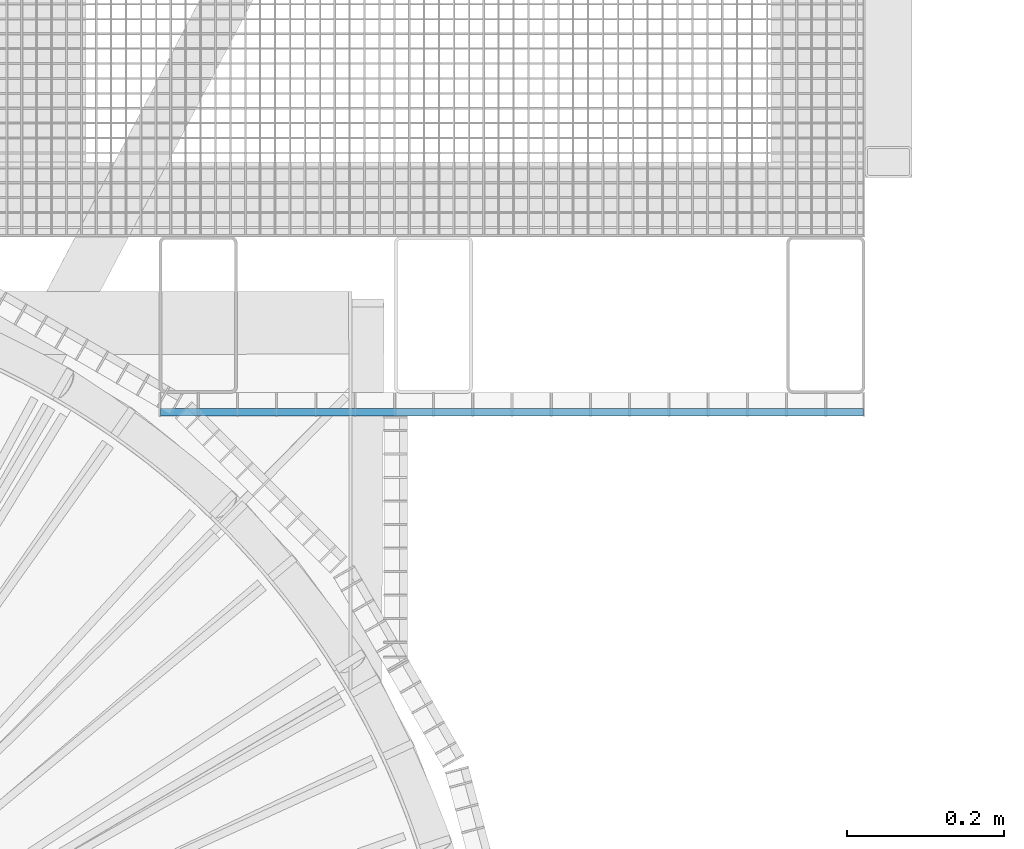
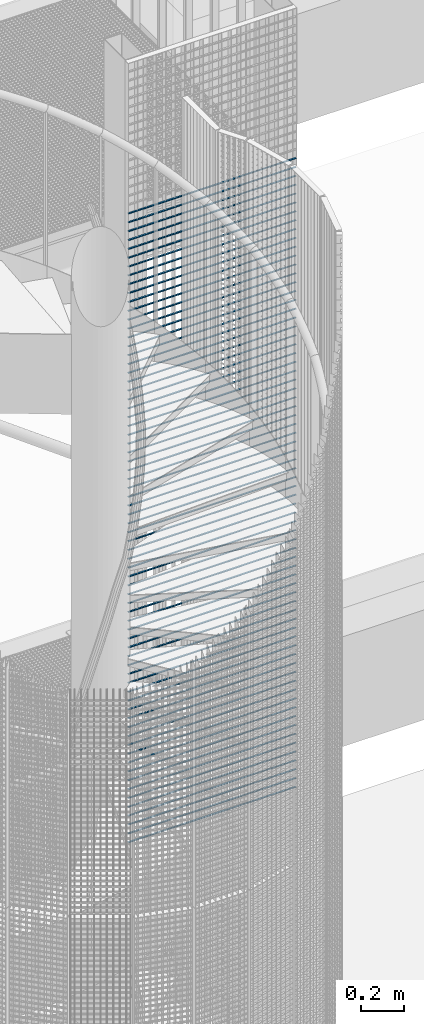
# One storey, part 304 of 1183: 72 beams, 1 element without a shape of its own.
"""IFC2X3 building model written with IfcOpenShell, lengths in millimetres."""

from ifc_helpers import new_model, si_unit, frame, origin_with_axes, origin_2d_with_axis, place, context, subcontext, project, spatial, rectangle, extrude, material, type_object, element, aggregate, save


model = new_model("IFC2X3")

# Units and contexts
model_context = context("Model", 3, precision=1e-05, world=origin_with_axes())
body_context = subcontext(model_context, "Body", "Model", "MODEL_VIEW")
ifc_project = project(units=[si_unit("LENGTHUNIT", "METRE", prefix="MILLI"), si_unit("AREAUNIT", "SQUARE_METRE"), si_unit("VOLUMEUNIT", "CUBIC_METRE"), si_unit("MASSUNIT", "GRAM", prefix="KILO"), si_unit("TIMEUNIT", "SECOND"), si_unit("PLANEANGLEUNIT", "RADIAN"), si_unit("SOLIDANGLEUNIT", "STERADIAN"), si_unit("THERMODYNAMICTEMPERATUREUNIT", "DEGREE_CELSIUS"), si_unit("LUMINOUSINTENSITYUNIT", "LUMEN")], contexts=[model_context])

# Site, building, storey
site_placement = place(None, origin_with_axes())
site = spatial("IfcSite", under=ifc_project, at=site_placement, Name="Undefined", CompositionType="ELEMENT")
building_placement = place(site_placement, origin_with_axes())
building = spatial("IfcBuilding", under=site, at=building_placement, Name="Undefined", CompositionType="ELEMENT")
storey_placement = place(building_placement, origin_with_axes())
storey = spatial("IfcBuildingStorey", under=building, at=storey_placement, Name="Undefined", CompositionType="ELEMENT", Elevation=0.0)

# Assembly, beams
assembly_placement = place(storey_placement, origin_with_axes())
assembly = element("IfcElementAssembly", 1, at=assembly_placement, inside=storey, Name="BORDURE", AssemblyPlace="NOTDEFINED", PredefinedType="NOTDEFINED")
ifc_material = material(Name="STEEL/S235JR")
beam_type = type_object("IfcBeamType", Name="PL2*10", PredefinedType="NOTDEFINED")
beam_1_placement = place(assembly_placement, frame((652.069589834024, 876.014689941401, 17439.998), z_axis=(0.0, -1.0, 0.0), x_axis=(1.0, 0.0, 0.0)))
beam_1 = element("IfcBeam", 2, at=beam_1_placement, type_object=beam_type, material=ifc_material, Name="ENTRETOISE", context=body_context, shape_type="SweptSolid", body=[
    extrude(rectangle(XDim=2.0, YDim=10.0, at=origin_2d_with_axis()), frame((896.0, 0.0, 0.0), z_axis=(-1.0, 0.0, 0.0), x_axis=(0.0, -1.0, 0.0)), (0.0, 0.0, 1.0), 896.0),
])
beam_2_placement = place(assembly_placement, frame((652.069589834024, 876.014689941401, 17389.998), z_axis=(0.0, -1.0, 0.0), x_axis=(1.0, 0.0, 0.0)))
beam_2 = element("IfcBeam", 3, at=beam_2_placement, type_object=beam_type, material=ifc_material, Name="ENTRETOISE", context=body_context, shape_type="SweptSolid", body=[
    extrude(rectangle(XDim=2.0, YDim=10.0, at=origin_2d_with_axis()), frame((896.0, 0.0, 0.0), z_axis=(-1.0, 0.0, 0.0), x_axis=(0.0, -1.0, 0.0)), (0.0, 0.0, 1.0), 896.0),
])
beam_3_placement = place(assembly_placement, frame((652.069589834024, 876.014689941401, 17339.998), z_axis=(0.0, -1.0, 0.0), x_axis=(1.0, 0.0, 0.0)))
beam_3 = element("IfcBeam", 4, at=beam_3_placement, type_object=beam_type, material=ifc_material, Name="ENTRETOISE", context=body_context, shape_type="SweptSolid", body=[
    extrude(rectangle(XDim=2.0, YDim=10.0, at=origin_2d_with_axis()), frame((896.0, 0.0, 0.0), z_axis=(-1.0, 0.0, 0.0), x_axis=(0.0, -1.0, 0.0)), (0.0, 0.0, 1.0), 896.0),
])
beam_4_placement = place(assembly_placement, frame((652.069589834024, 876.014689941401, 17289.998), z_axis=(0.0, -1.0, 0.0), x_axis=(1.0, 0.0, 0.0)))
beam_4 = element("IfcBeam", 5, at=beam_4_placement, type_object=beam_type, material=ifc_material, Name="ENTRETOISE", context=body_context, shape_type="SweptSolid", body=[
    extrude(rectangle(XDim=2.0, YDim=10.0, at=origin_2d_with_axis()), frame((896.0, 0.0, 0.0), z_axis=(-1.0, 0.0, 0.0), x_axis=(0.0, -1.0, 0.0)), (0.0, 0.0, 1.0), 896.0),
])
beam_5_placement = place(assembly_placement, frame((652.069589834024, 876.014689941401, 17239.998), z_axis=(0.0, -1.0, 0.0), x_axis=(1.0, 0.0, 0.0)))
beam_5 = element("IfcBeam", 6, at=beam_5_placement, type_object=beam_type, material=ifc_material, Name="ENTRETOISE", context=body_context, shape_type="SweptSolid", body=[
    extrude(rectangle(XDim=2.0, YDim=10.0, at=origin_2d_with_axis()), frame((896.0, 0.0, 0.0), z_axis=(-1.0, 0.0, 0.0), x_axis=(0.0, -1.0, 0.0)), (0.0, 0.0, 1.0), 896.0),
])
beam_6_placement = place(assembly_placement, frame((652.069589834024, 876.014689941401, 17189.998), z_axis=(0.0, -1.0, 0.0), x_axis=(1.0, 0.0, 0.0)))
beam_6 = element("IfcBeam", 7, at=beam_6_placement, type_object=beam_type, material=ifc_material, Name="ENTRETOISE", context=body_context, shape_type="SweptSolid", body=[
    extrude(rectangle(XDim=2.0, YDim=10.0, at=origin_2d_with_axis()), frame((896.0, 0.0, 0.0), z_axis=(-1.0, 0.0, 0.0), x_axis=(0.0, -1.0, 0.0)), (0.0, 0.0, 1.0), 896.0),
])
beam_7_placement = place(assembly_placement, frame((652.069589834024, 876.014689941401, 17139.998), z_axis=(0.0, -1.0, 0.0), x_axis=(1.0, 0.0, 0.0)))
beam_7 = element("IfcBeam", 8, at=beam_7_placement, type_object=beam_type, material=ifc_material, Name="ENTRETOISE", context=body_context, shape_type="SweptSolid", body=[
    extrude(rectangle(XDim=2.0, YDim=10.0, at=origin_2d_with_axis()), frame((896.0, 0.0, 0.0), z_axis=(-1.0, 0.0, 0.0), x_axis=(0.0, -1.0, 0.0)), (0.0, 0.0, 1.0), 896.0),
])
beam_8_placement = place(assembly_placement, frame((652.069589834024, 876.014689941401, 17089.998), z_axis=(0.0, -1.0, 0.0), x_axis=(1.0, 0.0, 0.0)))
beam_8 = element("IfcBeam", 9, at=beam_8_placement, type_object=beam_type, material=ifc_material, Name="ENTRETOISE", context=body_context, shape_type="SweptSolid", body=[
    extrude(rectangle(XDim=2.0, YDim=10.0, at=origin_2d_with_axis()), frame((896.0, 0.0, 0.0), z_axis=(-1.0, 0.0, 0.0), x_axis=(0.0, -1.0, 0.0)), (0.0, 0.0, 1.0), 896.0),
])
beam_9_placement = place(assembly_placement, frame((652.069589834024, 876.014689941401, 17039.998), z_axis=(0.0, -1.0, 0.0), x_axis=(1.0, 0.0, 0.0)))
beam_9 = element("IfcBeam", 10, at=beam_9_placement, type_object=beam_type, material=ifc_material, Name="ENTRETOISE", context=body_context, shape_type="SweptSolid", body=[
    extrude(rectangle(XDim=2.0, YDim=10.0, at=origin_2d_with_axis()), frame((896.0, 0.0, 0.0), z_axis=(-1.0, 0.0, 0.0), x_axis=(0.0, -1.0, 0.0)), (0.0, 0.0, 1.0), 896.0),
])
beam_10_placement = place(assembly_placement, frame((652.069589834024, 876.014689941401, 16989.998), z_axis=(0.0, -1.0, 0.0), x_axis=(1.0, 0.0, 0.0)))
beam_10 = element("IfcBeam", 11, at=beam_10_placement, type_object=beam_type, material=ifc_material, Name="ENTRETOISE", context=body_context, shape_type="SweptSolid", body=[
    extrude(rectangle(XDim=2.0, YDim=10.0, at=origin_2d_with_axis()), frame((896.0, 0.0, 0.0), z_axis=(-1.0, 0.0, 0.0), x_axis=(0.0, -1.0, 0.0)), (0.0, 0.0, 1.0), 896.0),
])
beam_11_placement = place(assembly_placement, frame((652.069589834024, 876.014689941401, 16939.998), z_axis=(0.0, -1.0, 0.0), x_axis=(1.0, 0.0, 0.0)))
beam_11 = element("IfcBeam", 12, at=beam_11_placement, type_object=beam_type, material=ifc_material, Name="ENTRETOISE", context=body_context, shape_type="SweptSolid", body=[
    extrude(rectangle(XDim=2.0, YDim=10.0, at=origin_2d_with_axis()), frame((896.0, 0.0, 0.0), z_axis=(-1.0, 0.0, 0.0), x_axis=(0.0, -1.0, 0.0)), (0.0, 0.0, 1.0), 896.0),
])
beam_12_placement = place(assembly_placement, frame((652.069589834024, 876.014689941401, 16889.998), z_axis=(0.0, -1.0, 0.0), x_axis=(1.0, 0.0, 0.0)))
beam_12 = element("IfcBeam", 13, at=beam_12_placement, type_object=beam_type, material=ifc_material, Name="ENTRETOISE", context=body_context, shape_type="SweptSolid", body=[
    extrude(rectangle(XDim=2.0, YDim=10.0, at=origin_2d_with_axis()), frame((896.0, 0.0, 0.0), z_axis=(-1.0, 0.0, 0.0), x_axis=(0.0, -1.0, 0.0)), (0.0, 0.0, 1.0), 896.0),
])
beam_13_placement = place(assembly_placement, frame((652.069589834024, 876.014689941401, 16839.998), z_axis=(0.0, -1.0, 0.0), x_axis=(1.0, 0.0, 0.0)))
beam_13 = element("IfcBeam", 14, at=beam_13_placement, type_object=beam_type, material=ifc_material, Name="ENTRETOISE", context=body_context, shape_type="SweptSolid", body=[
    extrude(rectangle(XDim=2.0, YDim=10.0, at=origin_2d_with_axis()), frame((896.0, 0.0, 0.0), z_axis=(-1.0, 0.0, 0.0), x_axis=(0.0, -1.0, 0.0)), (0.0, 0.0, 1.0), 896.0),
])
beam_14_placement = place(assembly_placement, frame((652.069589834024, 876.014689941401, 16789.998), z_axis=(0.0, -1.0, 0.0), x_axis=(1.0, 0.0, 0.0)))
beam_14 = element("IfcBeam", 15, at=beam_14_placement, type_object=beam_type, material=ifc_material, Name="ENTRETOISE", context=body_context, shape_type="SweptSolid", body=[
    extrude(rectangle(XDim=2.0, YDim=10.0, at=origin_2d_with_axis()), frame((896.0, 0.0, 0.0), z_axis=(-1.0, 0.0, 0.0), x_axis=(0.0, -1.0, 0.0)), (0.0, 0.0, 1.0), 896.0),
])
beam_15_placement = place(assembly_placement, frame((652.069589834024, 876.014689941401, 16739.998), z_axis=(0.0, -1.0, 0.0), x_axis=(1.0, 0.0, 0.0)))
beam_15 = element("IfcBeam", 16, at=beam_15_placement, type_object=beam_type, material=ifc_material, Name="ENTRETOISE", context=body_context, shape_type="SweptSolid", body=[
    extrude(rectangle(XDim=2.0, YDim=10.0, at=origin_2d_with_axis()), frame((896.0, 0.0, 0.0), z_axis=(-1.0, 0.0, 0.0), x_axis=(0.0, -1.0, 0.0)), (0.0, 0.0, 1.0), 896.0),
])
beam_16_placement = place(assembly_placement, frame((652.069589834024, 876.014689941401, 16689.998), z_axis=(0.0, -1.0, 0.0), x_axis=(1.0, 0.0, 0.0)))
beam_16 = element("IfcBeam", 17, at=beam_16_placement, type_object=beam_type, material=ifc_material, Name="ENTRETOISE", context=body_context, shape_type="SweptSolid", body=[
    extrude(rectangle(XDim=2.0, YDim=10.0, at=origin_2d_with_axis()), frame((896.0, 0.0, 0.0), z_axis=(-1.0, 0.0, 0.0), x_axis=(0.0, -1.0, 0.0)), (0.0, 0.0, 1.0), 896.0),
])
beam_17_placement = place(assembly_placement, frame((652.069589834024, 876.014689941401, 16639.998), z_axis=(0.0, -1.0, 0.0), x_axis=(1.0, 0.0, 0.0)))
beam_17 = element("IfcBeam", 18, at=beam_17_placement, type_object=beam_type, material=ifc_material, Name="ENTRETOISE", context=body_context, shape_type="SweptSolid", body=[
    extrude(rectangle(XDim=2.0, YDim=10.0, at=origin_2d_with_axis()), frame((896.0, 0.0, 0.0), z_axis=(-1.0, 0.0, 0.0), x_axis=(0.0, -1.0, 0.0)), (0.0, 0.0, 1.0), 896.0),
])
beam_18_placement = place(assembly_placement, frame((652.069589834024, 876.014689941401, 16589.998), z_axis=(0.0, -1.0, 0.0), x_axis=(1.0, 0.0, 0.0)))
beam_18 = element("IfcBeam", 19, at=beam_18_placement, type_object=beam_type, material=ifc_material, Name="ENTRETOISE", context=body_context, shape_type="SweptSolid", body=[
    extrude(rectangle(XDim=2.0, YDim=10.0, at=origin_2d_with_axis()), frame((896.0, 0.0, 0.0), z_axis=(-1.0, 0.0, 0.0), x_axis=(0.0, -1.0, 0.0)), (0.0, 0.0, 1.0), 896.0),
])
beam_19_placement = place(assembly_placement, frame((652.069589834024, 876.014689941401, 16539.998), z_axis=(0.0, -1.0, 0.0), x_axis=(1.0, 0.0, 0.0)))
beam_19 = element("IfcBeam", 20, at=beam_19_placement, type_object=beam_type, material=ifc_material, Name="ENTRETOISE", context=body_context, shape_type="SweptSolid", body=[
    extrude(rectangle(XDim=2.0, YDim=10.0, at=origin_2d_with_axis()), frame((896.0, 0.0, 0.0), z_axis=(-1.0, 0.0, 0.0), x_axis=(0.0, -1.0, 0.0)), (0.0, 0.0, 1.0), 896.0),
])
beam_20_placement = place(assembly_placement, frame((652.069589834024, 876.014689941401, 16489.998), z_axis=(0.0, -1.0, 0.0), x_axis=(1.0, 0.0, 0.0)))
beam_20 = element("IfcBeam", 21, at=beam_20_placement, type_object=beam_type, material=ifc_material, Name="ENTRETOISE", context=body_context, shape_type="SweptSolid", body=[
    extrude(rectangle(XDim=2.0, YDim=10.0, at=origin_2d_with_axis()), frame((896.0, 0.0, 0.0), z_axis=(-1.0, 0.0, 0.0), x_axis=(0.0, -1.0, 0.0)), (0.0, 0.0, 1.0), 896.0),
])
beam_21_placement = place(assembly_placement, frame((652.069589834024, 876.014689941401, 16439.998), z_axis=(0.0, -1.0, 0.0), x_axis=(1.0, 0.0, 0.0)))
beam_21 = element("IfcBeam", 22, at=beam_21_placement, type_object=beam_type, material=ifc_material, Name="ENTRETOISE", context=body_context, shape_type="SweptSolid", body=[
    extrude(rectangle(XDim=2.0, YDim=10.0, at=origin_2d_with_axis()), frame((896.0, 0.0, 0.0), z_axis=(-1.0, 0.0, 0.0), x_axis=(0.0, -1.0, 0.0)), (0.0, 0.0, 1.0), 896.0),
])
beam_22_placement = place(assembly_placement, frame((652.069589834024, 876.014689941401, 16389.998), z_axis=(0.0, -1.0, 0.0), x_axis=(1.0, 0.0, 0.0)))
beam_22 = element("IfcBeam", 23, at=beam_22_placement, type_object=beam_type, material=ifc_material, Name="ENTRETOISE", context=body_context, shape_type="SweptSolid", body=[
    extrude(rectangle(XDim=2.0, YDim=10.0, at=origin_2d_with_axis()), frame((896.0, 0.0, 0.0), z_axis=(-1.0, 0.0, 0.0), x_axis=(0.0, -1.0, 0.0)), (0.0, 0.0, 1.0), 896.0),
])
beam_23_placement = place(assembly_placement, frame((652.069589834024, 876.014689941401, 16339.998), z_axis=(0.0, -1.0, 0.0), x_axis=(1.0, 0.0, 0.0)))
beam_23 = element("IfcBeam", 24, at=beam_23_placement, type_object=beam_type, material=ifc_material, Name="ENTRETOISE", context=body_context, shape_type="SweptSolid", body=[
    extrude(rectangle(XDim=2.0, YDim=10.0, at=origin_2d_with_axis()), frame((896.0, 0.0, 0.0), z_axis=(-1.0, 0.0, 0.0), x_axis=(0.0, -1.0, 0.0)), (0.0, 0.0, 1.0), 896.0),
])
beam_24_placement = place(assembly_placement, frame((652.069589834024, 876.014689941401, 16289.998), z_axis=(0.0, -1.0, 0.0), x_axis=(1.0, 0.0, 0.0)))
beam_24 = element("IfcBeam", 25, at=beam_24_placement, type_object=beam_type, material=ifc_material, Name="ENTRETOISE", context=body_context, shape_type="SweptSolid", body=[
    extrude(rectangle(XDim=2.0, YDim=10.0, at=origin_2d_with_axis()), frame((896.0, 0.0, 0.0), z_axis=(-1.0, 0.0, 0.0), x_axis=(0.0, -1.0, 0.0)), (0.0, 0.0, 1.0), 896.0),
])
beam_25_placement = place(assembly_placement, frame((652.069589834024, 876.014689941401, 16239.998), z_axis=(0.0, -1.0, 0.0), x_axis=(1.0, 0.0, 0.0)))
beam_25 = element("IfcBeam", 26, at=beam_25_placement, type_object=beam_type, material=ifc_material, Name="ENTRETOISE", context=body_context, shape_type="SweptSolid", body=[
    extrude(rectangle(XDim=2.0, YDim=10.0, at=origin_2d_with_axis()), frame((896.0, 0.0, 0.0), z_axis=(-1.0, 0.0, 0.0), x_axis=(0.0, -1.0, 0.0)), (0.0, 0.0, 1.0), 896.0),
])
beam_26_placement = place(assembly_placement, frame((652.069589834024, 876.014689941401, 16189.998), z_axis=(0.0, -1.0, 0.0), x_axis=(1.0, 0.0, 0.0)))
beam_26 = element("IfcBeam", 27, at=beam_26_placement, type_object=beam_type, material=ifc_material, Name="ENTRETOISE", context=body_context, shape_type="SweptSolid", body=[
    extrude(rectangle(XDim=2.0, YDim=10.0, at=origin_2d_with_axis()), frame((896.0, 0.0, 0.0), z_axis=(-1.0, 0.0, 0.0), x_axis=(0.0, -1.0, 0.0)), (0.0, 0.0, 1.0), 896.0),
])
beam_27_placement = place(assembly_placement, frame((652.069589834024, 876.014689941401, 16139.998), z_axis=(0.0, -1.0, 0.0), x_axis=(1.0, 0.0, 0.0)))
beam_27 = element("IfcBeam", 28, at=beam_27_placement, type_object=beam_type, material=ifc_material, Name="ENTRETOISE", context=body_context, shape_type="SweptSolid", body=[
    extrude(rectangle(XDim=2.0, YDim=10.0, at=origin_2d_with_axis()), frame((896.0, 0.0, 0.0), z_axis=(-1.0, 0.0, 0.0), x_axis=(0.0, -1.0, 0.0)), (0.0, 0.0, 1.0), 896.0),
])
beam_28_placement = place(assembly_placement, frame((652.069589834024, 876.014689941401, 16089.998), z_axis=(0.0, -1.0, 0.0), x_axis=(1.0, 0.0, 0.0)))
beam_28 = element("IfcBeam", 29, at=beam_28_placement, type_object=beam_type, material=ifc_material, Name="ENTRETOISE", context=body_context, shape_type="SweptSolid", body=[
    extrude(rectangle(XDim=2.0, YDim=10.0, at=origin_2d_with_axis()), frame((896.0, 0.0, 0.0), z_axis=(-1.0, 0.0, 0.0), x_axis=(0.0, -1.0, 0.0)), (0.0, 0.0, 1.0), 896.0),
])
beam_29_placement = place(assembly_placement, frame((652.069589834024, 876.014689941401, 16039.998), z_axis=(0.0, -1.0, 0.0), x_axis=(1.0, 0.0, 0.0)))
beam_29 = element("IfcBeam", 30, at=beam_29_placement, type_object=beam_type, material=ifc_material, Name="ENTRETOISE", context=body_context, shape_type="SweptSolid", body=[
    extrude(rectangle(XDim=2.0, YDim=10.0, at=origin_2d_with_axis()), frame((896.0, 0.0, 0.0), z_axis=(-1.0, 0.0, 0.0), x_axis=(0.0, -1.0, 0.0)), (0.0, 0.0, 1.0), 896.0),
])
beam_30_placement = place(assembly_placement, frame((652.069589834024, 876.014689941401, 15989.998), z_axis=(0.0, -1.0, 0.0), x_axis=(1.0, 0.0, 0.0)))
beam_30 = element("IfcBeam", 31, at=beam_30_placement, type_object=beam_type, material=ifc_material, Name="ENTRETOISE", context=body_context, shape_type="SweptSolid", body=[
    extrude(rectangle(XDim=2.0, YDim=10.0, at=origin_2d_with_axis()), frame((896.0, 0.0, 0.0), z_axis=(-1.0, 0.0, 0.0), x_axis=(0.0, -1.0, 0.0)), (0.0, 0.0, 1.0), 896.0),
])
beam_31_placement = place(assembly_placement, frame((652.069589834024, 876.014689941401, 15939.998), z_axis=(0.0, -1.0, 0.0), x_axis=(1.0, 0.0, 0.0)))
beam_31 = element("IfcBeam", 32, at=beam_31_placement, type_object=beam_type, material=ifc_material, Name="ENTRETOISE", context=body_context, shape_type="SweptSolid", body=[
    extrude(rectangle(XDim=2.0, YDim=10.0, at=origin_2d_with_axis()), frame((896.0, 0.0, 0.0), z_axis=(-1.0, 0.0, 0.0), x_axis=(0.0, -1.0, 0.0)), (0.0, 0.0, 1.0), 896.0),
])
beam_32_placement = place(assembly_placement, frame((652.069589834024, 876.014689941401, 15889.998), z_axis=(0.0, -1.0, 0.0), x_axis=(1.0, 0.0, 0.0)))
beam_32 = element("IfcBeam", 33, at=beam_32_placement, type_object=beam_type, material=ifc_material, Name="ENTRETOISE", context=body_context, shape_type="SweptSolid", body=[
    extrude(rectangle(XDim=2.0, YDim=10.0, at=origin_2d_with_axis()), frame((896.0, 0.0, 0.0), z_axis=(-1.0, 0.0, 0.0), x_axis=(0.0, -1.0, 0.0)), (0.0, 0.0, 1.0), 896.0),
])
beam_33_placement = place(assembly_placement, frame((652.069589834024, 876.014689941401, 15839.998), z_axis=(0.0, -1.0, 0.0), x_axis=(1.0, 0.0, 0.0)))
beam_33 = element("IfcBeam", 34, at=beam_33_placement, type_object=beam_type, material=ifc_material, Name="ENTRETOISE", context=body_context, shape_type="SweptSolid", body=[
    extrude(rectangle(XDim=2.0, YDim=10.0, at=origin_2d_with_axis()), frame((896.0, 0.0, 0.0), z_axis=(-1.0, 0.0, 0.0), x_axis=(0.0, -1.0, 0.0)), (0.0, 0.0, 1.0), 896.0),
])
beam_34_placement = place(assembly_placement, frame((652.069589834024, 876.014689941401, 15789.998), z_axis=(0.0, -1.0, 0.0), x_axis=(1.0, 0.0, 0.0)))
beam_34 = element("IfcBeam", 35, at=beam_34_placement, type_object=beam_type, material=ifc_material, Name="ENTRETOISE", context=body_context, shape_type="SweptSolid", body=[
    extrude(rectangle(XDim=2.0, YDim=10.0, at=origin_2d_with_axis()), frame((896.0, 0.0, 0.0), z_axis=(-1.0, 0.0, 0.0), x_axis=(0.0, -1.0, 0.0)), (0.0, 0.0, 1.0), 896.0),
])
beam_35_placement = place(assembly_placement, frame((652.069589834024, 876.014689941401, 15739.998), z_axis=(0.0, -1.0, 0.0), x_axis=(1.0, 0.0, 0.0)))
beam_35 = element("IfcBeam", 36, at=beam_35_placement, type_object=beam_type, material=ifc_material, Name="ENTRETOISE", context=body_context, shape_type="SweptSolid", body=[
    extrude(rectangle(XDim=2.0, YDim=10.0, at=origin_2d_with_axis()), frame((896.0, 0.0, 0.0), z_axis=(-1.0, 0.0, 0.0), x_axis=(0.0, -1.0, 0.0)), (0.0, 0.0, 1.0), 896.0),
])
beam_36_placement = place(assembly_placement, frame((652.069589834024, 876.014689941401, 15689.998), z_axis=(0.0, -1.0, 0.0), x_axis=(1.0, 0.0, 0.0)))
beam_36 = element("IfcBeam", 37, at=beam_36_placement, type_object=beam_type, material=ifc_material, Name="ENTRETOISE", context=body_context, shape_type="SweptSolid", body=[
    extrude(rectangle(XDim=2.0, YDim=10.0, at=origin_2d_with_axis()), frame((896.0, 0.0, 0.0), z_axis=(-1.0, 0.0, 0.0), x_axis=(0.0, -1.0, 0.0)), (0.0, 0.0, 1.0), 896.0),
])
beam_37_placement = place(assembly_placement, frame((652.069589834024, 876.014689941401, 15639.998), z_axis=(0.0, -1.0, 0.0), x_axis=(1.0, 0.0, 0.0)))
beam_37 = element("IfcBeam", 38, at=beam_37_placement, type_object=beam_type, material=ifc_material, Name="ENTRETOISE", context=body_context, shape_type="SweptSolid", body=[
    extrude(rectangle(XDim=2.0, YDim=10.0, at=origin_2d_with_axis()), frame((896.0, 0.0, 0.0), z_axis=(-1.0, 0.0, 0.0), x_axis=(0.0, -1.0, 0.0)), (0.0, 0.0, 1.0), 896.0),
])
beam_38_placement = place(assembly_placement, frame((652.069589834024, 876.014689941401, 15589.998), z_axis=(0.0, -1.0, 0.0), x_axis=(1.0, 0.0, 0.0)))
beam_38 = element("IfcBeam", 39, at=beam_38_placement, type_object=beam_type, material=ifc_material, Name="ENTRETOISE", context=body_context, shape_type="SweptSolid", body=[
    extrude(rectangle(XDim=2.0, YDim=10.0, at=origin_2d_with_axis()), frame((896.0, 0.0, 0.0), z_axis=(-1.0, 0.0, 0.0), x_axis=(0.0, -1.0, 0.0)), (0.0, 0.0, 1.0), 896.0),
])
beam_39_placement = place(assembly_placement, frame((652.069589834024, 876.014689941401, 15539.998), z_axis=(0.0, -1.0, 0.0), x_axis=(1.0, 0.0, 0.0)))
beam_39 = element("IfcBeam", 40, at=beam_39_placement, type_object=beam_type, material=ifc_material, Name="ENTRETOISE", context=body_context, shape_type="SweptSolid", body=[
    extrude(rectangle(XDim=2.0, YDim=10.0, at=origin_2d_with_axis()), frame((896.0, 0.0, 0.0), z_axis=(-1.0, 0.0, 0.0), x_axis=(0.0, -1.0, 0.0)), (0.0, 0.0, 1.0), 896.0),
])
beam_40_placement = place(assembly_placement, frame((652.069589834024, 876.014689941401, 15489.998), z_axis=(0.0, -1.0, 0.0), x_axis=(1.0, 0.0, 0.0)))
beam_40 = element("IfcBeam", 41, at=beam_40_placement, type_object=beam_type, material=ifc_material, Name="ENTRETOISE", context=body_context, shape_type="SweptSolid", body=[
    extrude(rectangle(XDim=2.0, YDim=10.0, at=origin_2d_with_axis()), frame((896.0, 0.0, 0.0), z_axis=(-1.0, 0.0, 0.0), x_axis=(0.0, -1.0, 0.0)), (0.0, 0.0, 1.0), 896.0),
])
beam_41_placement = place(assembly_placement, frame((652.069589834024, 876.014689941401, 15439.998), z_axis=(0.0, -1.0, 0.0), x_axis=(1.0, 0.0, 0.0)))
beam_41 = element("IfcBeam", 42, at=beam_41_placement, type_object=beam_type, material=ifc_material, Name="ENTRETOISE", context=body_context, shape_type="SweptSolid", body=[
    extrude(rectangle(XDim=2.0, YDim=10.0, at=origin_2d_with_axis()), frame((896.0, 0.0, 0.0), z_axis=(-1.0, 0.0, 0.0), x_axis=(0.0, -1.0, 0.0)), (0.0, 0.0, 1.0), 896.0),
])
beam_42_placement = place(assembly_placement, frame((652.069589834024, 876.014689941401, 15389.998), z_axis=(0.0, -1.0, 0.0), x_axis=(1.0, 0.0, 0.0)))
beam_42 = element("IfcBeam", 43, at=beam_42_placement, type_object=beam_type, material=ifc_material, Name="ENTRETOISE", context=body_context, shape_type="SweptSolid", body=[
    extrude(rectangle(XDim=2.0, YDim=10.0, at=origin_2d_with_axis()), frame((896.0, 0.0, 0.0), z_axis=(-1.0, 0.0, 0.0), x_axis=(0.0, -1.0, 0.0)), (0.0, 0.0, 1.0), 896.0),
])
beam_43_placement = place(assembly_placement, frame((652.069589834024, 876.014689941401, 15339.998), z_axis=(0.0, -1.0, 0.0), x_axis=(1.0, 0.0, 0.0)))
beam_43 = element("IfcBeam", 44, at=beam_43_placement, type_object=beam_type, material=ifc_material, Name="ENTRETOISE", context=body_context, shape_type="SweptSolid", body=[
    extrude(rectangle(XDim=2.0, YDim=10.0, at=origin_2d_with_axis()), frame((896.0, 0.0, 0.0), z_axis=(-1.0, 0.0, 0.0), x_axis=(0.0, -1.0, 0.0)), (0.0, 0.0, 1.0), 896.0),
])
beam_44_placement = place(assembly_placement, frame((652.069589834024, 876.014689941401, 15289.998), z_axis=(0.0, -1.0, 0.0), x_axis=(1.0, 0.0, 0.0)))
beam_44 = element("IfcBeam", 45, at=beam_44_placement, type_object=beam_type, material=ifc_material, Name="ENTRETOISE", context=body_context, shape_type="SweptSolid", body=[
    extrude(rectangle(XDim=2.0, YDim=10.0, at=origin_2d_with_axis()), frame((896.0, 0.0, 0.0), z_axis=(-1.0, 0.0, 0.0), x_axis=(0.0, -1.0, 0.0)), (0.0, 0.0, 1.0), 896.0),
])
beam_45_placement = place(assembly_placement, frame((652.069589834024, 876.014689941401, 15239.998), z_axis=(0.0, -1.0, 0.0), x_axis=(1.0, 0.0, 0.0)))
beam_45 = element("IfcBeam", 46, at=beam_45_placement, type_object=beam_type, material=ifc_material, Name="ENTRETOISE", context=body_context, shape_type="SweptSolid", body=[
    extrude(rectangle(XDim=2.0, YDim=10.0, at=origin_2d_with_axis()), frame((896.0, 0.0, 0.0), z_axis=(-1.0, 0.0, 0.0), x_axis=(0.0, -1.0, 0.0)), (0.0, 0.0, 1.0), 896.0),
])
beam_46_placement = place(assembly_placement, frame((652.069589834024, 876.014689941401, 15189.998), z_axis=(0.0, -1.0, 0.0), x_axis=(1.0, 0.0, 0.0)))
beam_46 = element("IfcBeam", 47, at=beam_46_placement, type_object=beam_type, material=ifc_material, Name="ENTRETOISE", context=body_context, shape_type="SweptSolid", body=[
    extrude(rectangle(XDim=2.0, YDim=10.0, at=origin_2d_with_axis()), frame((896.0, 0.0, 0.0), z_axis=(-1.0, 0.0, 0.0), x_axis=(0.0, -1.0, 0.0)), (0.0, 0.0, 1.0), 896.0),
])
beam_47_placement = place(assembly_placement, frame((652.069589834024, 876.014689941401, 15139.998), z_axis=(0.0, -1.0, 0.0), x_axis=(1.0, 0.0, 0.0)))
beam_47 = element("IfcBeam", 48, at=beam_47_placement, type_object=beam_type, material=ifc_material, Name="ENTRETOISE", context=body_context, shape_type="SweptSolid", body=[
    extrude(rectangle(XDim=2.0, YDim=10.0, at=origin_2d_with_axis()), frame((896.0, 0.0, 0.0), z_axis=(-1.0, 0.0, 0.0), x_axis=(0.0, -1.0, 0.0)), (0.0, 0.0, 1.0), 896.0),
])
beam_48_placement = place(assembly_placement, frame((652.069589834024, 876.014689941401, 15089.998), z_axis=(0.0, -1.0, 0.0), x_axis=(1.0, 0.0, 0.0)))
beam_48 = element("IfcBeam", 49, at=beam_48_placement, type_object=beam_type, material=ifc_material, Name="ENTRETOISE", context=body_context, shape_type="SweptSolid", body=[
    extrude(rectangle(XDim=2.0, YDim=10.0, at=origin_2d_with_axis()), frame((896.0, 0.0, 0.0), z_axis=(-1.0, 0.0, 0.0), x_axis=(0.0, -1.0, 0.0)), (0.0, 0.0, 1.0), 896.0),
])
beam_49_placement = place(assembly_placement, frame((652.069589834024, 876.014689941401, 15039.998), z_axis=(0.0, -1.0, 0.0), x_axis=(1.0, 0.0, 0.0)))
beam_49 = element("IfcBeam", 50, at=beam_49_placement, type_object=beam_type, material=ifc_material, Name="ENTRETOISE", context=body_context, shape_type="SweptSolid", body=[
    extrude(rectangle(XDim=2.0, YDim=10.0, at=origin_2d_with_axis()), frame((896.0, 0.0, 0.0), z_axis=(-1.0, 0.0, 0.0), x_axis=(0.0, -1.0, 0.0)), (0.0, 0.0, 1.0), 896.0),
])
beam_50_placement = place(assembly_placement, frame((652.069589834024, 876.014689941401, 14989.998), z_axis=(0.0, -1.0, 0.0), x_axis=(1.0, 0.0, 0.0)))
beam_50 = element("IfcBeam", 51, at=beam_50_placement, type_object=beam_type, material=ifc_material, Name="ENTRETOISE", context=body_context, shape_type="SweptSolid", body=[
    extrude(rectangle(XDim=2.0, YDim=10.0, at=origin_2d_with_axis()), frame((896.0, 0.0, 0.0), z_axis=(-1.0, 0.0, 0.0), x_axis=(0.0, -1.0, 0.0)), (0.0, 0.0, 1.0), 896.0),
])
beam_51_placement = place(assembly_placement, frame((652.069589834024, 876.014689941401, 14939.998), z_axis=(0.0, -1.0, 0.0), x_axis=(1.0, 0.0, 0.0)))
beam_51 = element("IfcBeam", 52, at=beam_51_placement, type_object=beam_type, material=ifc_material, Name="ENTRETOISE", context=body_context, shape_type="SweptSolid", body=[
    extrude(rectangle(XDim=2.0, YDim=10.0, at=origin_2d_with_axis()), frame((896.0, 0.0, 0.0), z_axis=(-1.0, 0.0, 0.0), x_axis=(0.0, -1.0, 0.0)), (0.0, 0.0, 1.0), 896.0),
])
beam_52_placement = place(assembly_placement, frame((652.069589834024, 876.014689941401, 14889.998), z_axis=(0.0, -1.0, 0.0), x_axis=(1.0, 0.0, 0.0)))
beam_52 = element("IfcBeam", 53, at=beam_52_placement, type_object=beam_type, material=ifc_material, Name="ENTRETOISE", context=body_context, shape_type="SweptSolid", body=[
    extrude(rectangle(XDim=2.0, YDim=10.0, at=origin_2d_with_axis()), frame((896.0, 0.0, 0.0), z_axis=(-1.0, 0.0, 0.0), x_axis=(0.0, -1.0, 0.0)), (0.0, 0.0, 1.0), 896.0),
])
beam_53_placement = place(assembly_placement, frame((652.069589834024, 876.014689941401, 14839.998), z_axis=(0.0, -1.0, 0.0), x_axis=(1.0, 0.0, 0.0)))
beam_53 = element("IfcBeam", 54, at=beam_53_placement, type_object=beam_type, material=ifc_material, Name="ENTRETOISE", context=body_context, shape_type="SweptSolid", body=[
    extrude(rectangle(XDim=2.0, YDim=10.0, at=origin_2d_with_axis()), frame((896.0, 0.0, 0.0), z_axis=(-1.0, 0.0, 0.0), x_axis=(0.0, -1.0, 0.0)), (0.0, 0.0, 1.0), 896.0),
])
beam_54_placement = place(assembly_placement, frame((652.069589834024, 876.014689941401, 14789.998), z_axis=(0.0, -1.0, 0.0), x_axis=(1.0, 0.0, 0.0)))
beam_54 = element("IfcBeam", 55, at=beam_54_placement, type_object=beam_type, material=ifc_material, Name="ENTRETOISE", context=body_context, shape_type="SweptSolid", body=[
    extrude(rectangle(XDim=2.0, YDim=10.0, at=origin_2d_with_axis()), frame((896.0, 0.0, 0.0), z_axis=(-1.0, 0.0, 0.0), x_axis=(0.0, -1.0, 0.0)), (0.0, 0.0, 1.0), 896.0),
])
beam_55_placement = place(assembly_placement, frame((652.069589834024, 876.014689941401, 14739.998), z_axis=(0.0, -1.0, 0.0), x_axis=(1.0, 0.0, 0.0)))
beam_55 = element("IfcBeam", 56, at=beam_55_placement, type_object=beam_type, material=ifc_material, Name="ENTRETOISE", context=body_context, shape_type="SweptSolid", body=[
    extrude(rectangle(XDim=2.0, YDim=10.0, at=origin_2d_with_axis()), frame((896.0, 0.0, 0.0), z_axis=(-1.0, 0.0, 0.0), x_axis=(0.0, -1.0, 0.0)), (0.0, 0.0, 1.0), 896.0),
])
beam_56_placement = place(assembly_placement, frame((652.069589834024, 876.014689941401, 14689.998), z_axis=(0.0, -1.0, 0.0), x_axis=(1.0, 0.0, 0.0)))
beam_56 = element("IfcBeam", 57, at=beam_56_placement, type_object=beam_type, material=ifc_material, Name="ENTRETOISE", context=body_context, shape_type="SweptSolid", body=[
    extrude(rectangle(XDim=2.0, YDim=10.0, at=origin_2d_with_axis()), frame((896.0, 0.0, 0.0), z_axis=(-1.0, 0.0, 0.0), x_axis=(0.0, -1.0, 0.0)), (0.0, 0.0, 1.0), 896.0),
])
beam_57_placement = place(assembly_placement, frame((652.069589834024, 876.014689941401, 14639.998), z_axis=(0.0, -1.0, 0.0), x_axis=(1.0, 0.0, 0.0)))
beam_57 = element("IfcBeam", 58, at=beam_57_placement, type_object=beam_type, material=ifc_material, Name="ENTRETOISE", context=body_context, shape_type="SweptSolid", body=[
    extrude(rectangle(XDim=2.0, YDim=10.0, at=origin_2d_with_axis()), frame((896.0, 0.0, 0.0), z_axis=(-1.0, 0.0, 0.0), x_axis=(0.0, -1.0, 0.0)), (0.0, 0.0, 1.0), 896.0),
])
beam_58_placement = place(assembly_placement, frame((652.069589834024, 876.014689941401, 14589.998), z_axis=(0.0, -1.0, 0.0), x_axis=(1.0, 0.0, 0.0)))
beam_58 = element("IfcBeam", 59, at=beam_58_placement, type_object=beam_type, material=ifc_material, Name="ENTRETOISE", context=body_context, shape_type="SweptSolid", body=[
    extrude(rectangle(XDim=2.0, YDim=10.0, at=origin_2d_with_axis()), frame((896.0, 0.0, 0.0), z_axis=(-1.0, 0.0, 0.0), x_axis=(0.0, -1.0, 0.0)), (0.0, 0.0, 1.0), 896.0),
])
beam_59_placement = place(assembly_placement, frame((652.069589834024, 876.014689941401, 14539.998), z_axis=(0.0, -1.0, 0.0), x_axis=(1.0, 0.0, 0.0)))
beam_59 = element("IfcBeam", 60, at=beam_59_placement, type_object=beam_type, material=ifc_material, Name="ENTRETOISE", context=body_context, shape_type="SweptSolid", body=[
    extrude(rectangle(XDim=2.0, YDim=10.0, at=origin_2d_with_axis()), frame((896.0, 0.0, 0.0), z_axis=(-1.0, 0.0, 0.0), x_axis=(0.0, -1.0, 0.0)), (0.0, 0.0, 1.0), 896.0),
])
beam_60_placement = place(assembly_placement, frame((652.069589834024, 876.014689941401, 14489.998), z_axis=(0.0, -1.0, 0.0), x_axis=(1.0, 0.0, 0.0)))
beam_60 = element("IfcBeam", 61, at=beam_60_placement, type_object=beam_type, material=ifc_material, Name="ENTRETOISE", context=body_context, shape_type="SweptSolid", body=[
    extrude(rectangle(XDim=2.0, YDim=10.0, at=origin_2d_with_axis()), frame((896.0, 0.0, 0.0), z_axis=(-1.0, 0.0, 0.0), x_axis=(0.0, -1.0, 0.0)), (0.0, 0.0, 1.0), 896.0),
])
beam_61_placement = place(assembly_placement, frame((652.069589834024, 876.014689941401, 14439.998), z_axis=(0.0, -1.0, 0.0), x_axis=(1.0, 0.0, 0.0)))
beam_61 = element("IfcBeam", 62, at=beam_61_placement, type_object=beam_type, material=ifc_material, Name="ENTRETOISE", context=body_context, shape_type="SweptSolid", body=[
    extrude(rectangle(XDim=2.0, YDim=10.0, at=origin_2d_with_axis()), frame((896.0, 0.0, 0.0), z_axis=(-1.0, 0.0, 0.0), x_axis=(0.0, -1.0, 0.0)), (0.0, 0.0, 1.0), 896.0),
])
beam_62_placement = place(assembly_placement, frame((652.069589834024, 876.014689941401, 14389.998), z_axis=(0.0, -1.0, 0.0), x_axis=(1.0, 0.0, 0.0)))
beam_62 = element("IfcBeam", 63, at=beam_62_placement, type_object=beam_type, material=ifc_material, Name="ENTRETOISE", context=body_context, shape_type="SweptSolid", body=[
    extrude(rectangle(XDim=2.0, YDim=10.0, at=origin_2d_with_axis()), frame((896.0, 0.0, 0.0), z_axis=(-1.0, 0.0, 0.0), x_axis=(0.0, -1.0, 0.0)), (0.0, 0.0, 1.0), 896.0),
])
beam_63_placement = place(assembly_placement, frame((652.069589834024, 876.014689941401, 14339.998), z_axis=(0.0, -1.0, 0.0), x_axis=(1.0, 0.0, 0.0)))
beam_63 = element("IfcBeam", 64, at=beam_63_placement, type_object=beam_type, material=ifc_material, Name="ENTRETOISE", context=body_context, shape_type="SweptSolid", body=[
    extrude(rectangle(XDim=2.0, YDim=10.0, at=origin_2d_with_axis()), frame((896.0, 0.0, 0.0), z_axis=(-1.0, 0.0, 0.0), x_axis=(0.0, -1.0, 0.0)), (0.0, 0.0, 1.0), 896.0),
])
beam_64_placement = place(assembly_placement, frame((652.069589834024, 876.014689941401, 14289.998), z_axis=(0.0, -1.0, 0.0), x_axis=(1.0, 0.0, 0.0)))
beam_64 = element("IfcBeam", 65, at=beam_64_placement, type_object=beam_type, material=ifc_material, Name="ENTRETOISE", context=body_context, shape_type="SweptSolid", body=[
    extrude(rectangle(XDim=2.0, YDim=10.0, at=origin_2d_with_axis()), frame((896.0, 0.0, 0.0), z_axis=(-1.0, 0.0, 0.0), x_axis=(0.0, -1.0, 0.0)), (0.0, 0.0, 1.0), 896.0),
])
beam_65_placement = place(assembly_placement, frame((652.069589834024, 876.014689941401, 14239.998), z_axis=(0.0, -1.0, 0.0), x_axis=(1.0, 0.0, 0.0)))
beam_65 = element("IfcBeam", 66, at=beam_65_placement, type_object=beam_type, material=ifc_material, Name="ENTRETOISE", context=body_context, shape_type="SweptSolid", body=[
    extrude(rectangle(XDim=2.0, YDim=10.0, at=origin_2d_with_axis()), frame((896.0, 0.0, 0.0), z_axis=(-1.0, 0.0, 0.0), x_axis=(0.0, -1.0, 0.0)), (0.0, 0.0, 1.0), 896.0),
])
beam_66_placement = place(assembly_placement, frame((652.069589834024, 876.014689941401, 14189.998), z_axis=(0.0, -1.0, 0.0), x_axis=(1.0, 0.0, 0.0)))
beam_66 = element("IfcBeam", 67, at=beam_66_placement, type_object=beam_type, material=ifc_material, Name="ENTRETOISE", context=body_context, shape_type="SweptSolid", body=[
    extrude(rectangle(XDim=2.0, YDim=10.0, at=origin_2d_with_axis()), frame((896.0, 0.0, 0.0), z_axis=(-1.0, 0.0, 0.0), x_axis=(0.0, -1.0, 0.0)), (0.0, 0.0, 1.0), 896.0),
])
beam_67_placement = place(assembly_placement, frame((652.069589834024, 876.014689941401, 14139.998), z_axis=(0.0, -1.0, 0.0), x_axis=(1.0, 0.0, 0.0)))
beam_67 = element("IfcBeam", 68, at=beam_67_placement, type_object=beam_type, material=ifc_material, Name="ENTRETOISE", context=body_context, shape_type="SweptSolid", body=[
    extrude(rectangle(XDim=2.0, YDim=10.0, at=origin_2d_with_axis()), frame((896.0, 0.0, 0.0), z_axis=(-1.0, 0.0, 0.0), x_axis=(0.0, -1.0, 0.0)), (0.0, 0.0, 1.0), 896.0),
])
beam_68_placement = place(assembly_placement, frame((652.069589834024, 876.014689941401, 14089.998), z_axis=(0.0, -1.0, 0.0), x_axis=(1.0, 0.0, 0.0)))
beam_68 = element("IfcBeam", 69, at=beam_68_placement, type_object=beam_type, material=ifc_material, Name="ENTRETOISE", context=body_context, shape_type="SweptSolid", body=[
    extrude(rectangle(XDim=2.0, YDim=10.0, at=origin_2d_with_axis()), frame((896.0, 0.0, 0.0), z_axis=(-1.0, 0.0, 0.0), x_axis=(0.0, -1.0, 0.0)), (0.0, 0.0, 1.0), 896.0),
])
beam_69_placement = place(assembly_placement, frame((652.069589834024, 876.014689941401, 14039.998), z_axis=(0.0, -1.0, 0.0), x_axis=(1.0, 0.0, 0.0)))
beam_69 = element("IfcBeam", 70, at=beam_69_placement, type_object=beam_type, material=ifc_material, Name="ENTRETOISE", context=body_context, shape_type="SweptSolid", body=[
    extrude(rectangle(XDim=2.0, YDim=10.0, at=origin_2d_with_axis()), frame((896.0, 0.0, 0.0), z_axis=(-1.0, 0.0, 0.0), x_axis=(0.0, -1.0, 0.0)), (0.0, 0.0, 1.0), 896.0),
])
beam_70_placement = place(assembly_placement, frame((652.069589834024, 876.014689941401, 13989.998), z_axis=(0.0, -1.0, 0.0), x_axis=(1.0, 0.0, 0.0)))
beam_70 = element("IfcBeam", 71, at=beam_70_placement, type_object=beam_type, material=ifc_material, Name="ENTRETOISE", context=body_context, shape_type="SweptSolid", body=[
    extrude(rectangle(XDim=2.0, YDim=10.0, at=origin_2d_with_axis()), frame((896.0, 0.0, 0.0), z_axis=(-1.0, 0.0, 0.0), x_axis=(0.0, -1.0, 0.0)), (0.0, 0.0, 1.0), 896.0),
])
beam_71_placement = place(assembly_placement, frame((652.069589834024, 876.014689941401, 13939.998), z_axis=(0.0, -1.0, 0.0), x_axis=(1.0, 0.0, 0.0)))
beam_71 = element("IfcBeam", 72, at=beam_71_placement, type_object=beam_type, material=ifc_material, Name="ENTRETOISE", context=body_context, shape_type="SweptSolid", body=[
    extrude(rectangle(XDim=2.0, YDim=10.0, at=origin_2d_with_axis()), frame((896.0, 0.0, 0.0), z_axis=(-1.0, 0.0, 0.0), x_axis=(0.0, -1.0, 0.0)), (0.0, 0.0, 1.0), 896.0),
])
beam_72_placement = place(assembly_placement, frame((652.069589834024, 876.014689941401, 13889.998), z_axis=(0.0, -1.0, 0.0), x_axis=(1.0, 0.0, 0.0)))
beam_72 = element("IfcBeam", 73, at=beam_72_placement, type_object=beam_type, material=ifc_material, Name="ENTRETOISE", context=body_context, shape_type="SweptSolid", body=[
    extrude(rectangle(XDim=2.0, YDim=10.0, at=origin_2d_with_axis()), frame((896.0, 0.0, 0.0), z_axis=(-1.0, 0.0, 0.0), x_axis=(0.0, -1.0, 0.0)), (0.0, 0.0, 1.0), 896.0),
])
aggregate(assembly, [beam_1, beam_2, beam_3, beam_4, beam_5, beam_6, beam_7, beam_8, beam_9, beam_10, beam_11, beam_12, beam_13, beam_14, beam_15, beam_16, beam_17, beam_18, beam_19, beam_20, beam_21, beam_22, beam_23, beam_24, beam_25, beam_26, beam_27, beam_28, beam_29, beam_30, beam_31, beam_32, beam_33, beam_34, beam_35, beam_36, beam_37, beam_38, beam_39, beam_40, beam_41, beam_42, beam_43, beam_44, beam_45, beam_46, beam_47, beam_48, beam_49, beam_50, beam_51, beam_52, beam_53, beam_54, beam_55, beam_56, beam_57, beam_58, beam_59, beam_60, beam_61, beam_62, beam_63, beam_64, beam_65, beam_66, beam_67, beam_68, beam_69, beam_70, beam_71, beam_72])

save(model, "model.ifc")
